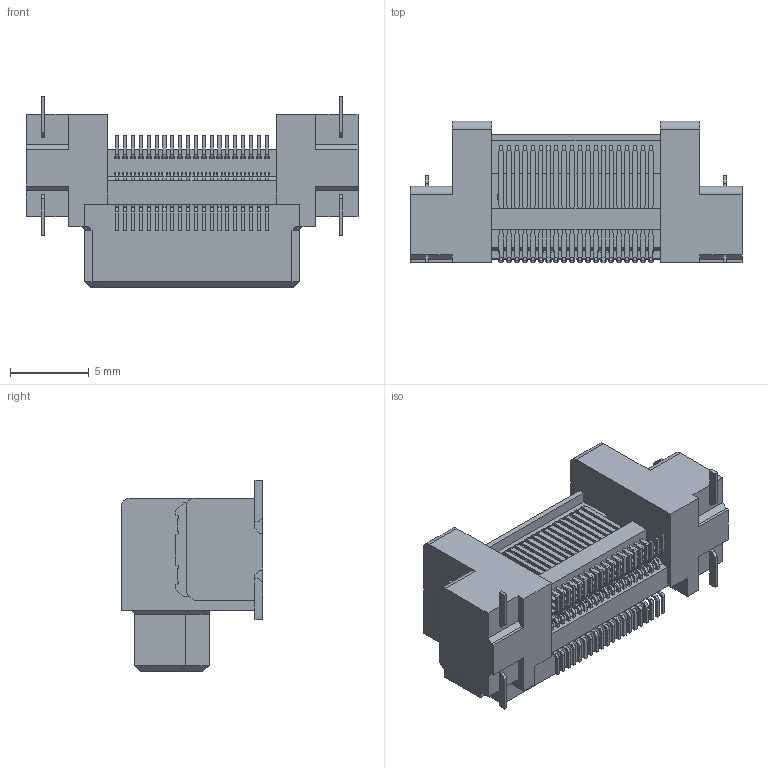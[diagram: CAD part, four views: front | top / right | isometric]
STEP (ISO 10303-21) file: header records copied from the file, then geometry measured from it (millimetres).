
FILE_DESCRIPTION(('Creo Elements/Direct Modeling STEP Export'),'2;1');
FILE_NAME('DT10-040L.stp','2018-11-12T16:52:15',(''),(''),'Creo Elements/Direct Modeling STEP processor for AP214 (Solid Model)','Creo Elements/Direct Modeling 19.0F 14-Feb-2017 (C) Parametric Technology GmbH','');
FILE_SCHEMA(('AUTOMOTIVE_DESIGN { 1 0 10303 214 1 1 1 1 }'));
Products named in the file (2): DT10-040L_model
Assembly tree (1 placements, depth 2):
  DT10-040L_model
    DT10-040L_model
Bounding box: 21.12 x 9 x 12.2 mm (x, y, z)
Volume: 924.9 mm3; surface area: 1278.5 mm2
Topology: 1 solids, 1 shells, 2100 faces, 5896 edges, 3840 vertices
Faces by surface type: plane 1768, cylinder 332
Entity records: 64777 total; most frequent: ORIENTED_EDGE 11792, CARTESIAN_POINT 11347, DIRECTION 10061, EDGE_CURVE 5896, VECTOR 4953, LINE 4953, VERTEX_POINT 3840, AXIS2_PLACEMENT_3D 2554
